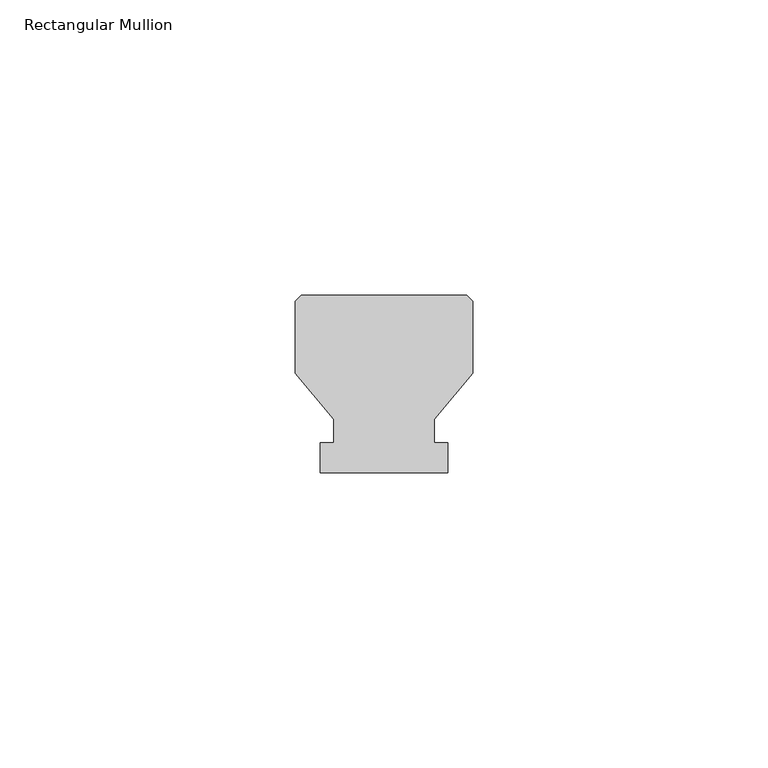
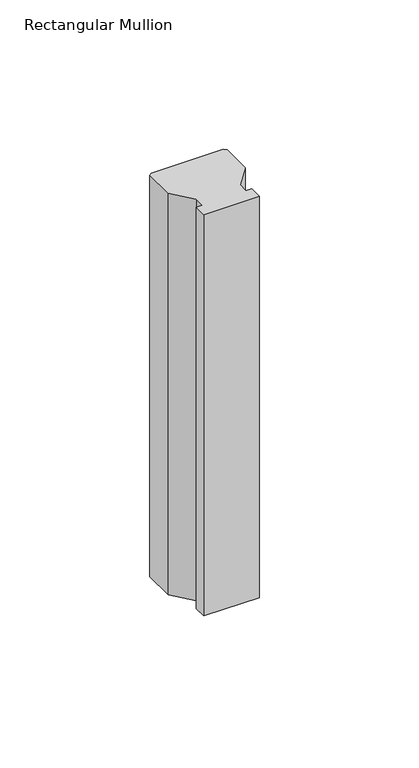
"""IFC4 building model written with IfcOpenShell, lengths in millimetres: member geometry, Rectangular Mullion : Batten_Timber_Modinex_Austratus_Grid_Fin_30x30_Hemlock."""

from ifc_helpers import new_model, si_unit, frame, origin, place, context, project, spatial, polyline, outline, extrude, source, transform, mapped, element, save


def rectangular_mullion_90b7c467(model_context):
    return source(origin(), model_context, "Body", "SweptSolid", [
        extrude(outline(polyline([(-30.0, 16.8079815), (-30.0, 29.0), (-29.0, 30.0), (-1.0, 30.0), (0.0, 29.0), (0.0, 16.8079815), (-6.5, 9.0), (-6.5, 5.0), (-4.187805, 5.0), (-4.187805, 0.0), (-25.812195, 0.0), (-25.812195, 5.0), (-23.5, 5.0), (-23.5, 9.0), (-30.0, 16.8079815)])), frame((0.0, 0.0, -165.0), z_axis=(0.0, 0.0, 1.0), x_axis=(1.0, 0.0, 0.0)), (0.0, 0.0, 1.0), 165.0),
    ])


if __name__ == "__main__":
    model = new_model("IFC4")
    model_context = context("Model", 3, world=origin())
    ifc_project = project(units=[si_unit("LENGTHUNIT", "METRE", prefix="MILLI")], contexts=[model_context])
    site = spatial("IfcSite", under=ifc_project)
    building = spatial("IfcBuilding", under=site)
    placement = place(None, origin())
    rectangular_mullion_shape = rectangular_mullion_90b7c467(model_context)
    element("IfcMember", 1, ObjectType="Rectangular Mullion : Batten_Timber_Modinex_Austratus_Grid_Fin_30x30_Hemlock", at=placement, inside=building, context=model_context, shape_type="MappedRepresentation", body=[
        mapped(rectangular_mullion_shape, transform((0.0, 0.0, 0.0), x_axis=(1.0, 0.0, 0.0), y_axis=(0.0, 1.0, 0.0), z_axis=(0.0, 0.0, 1.0))),
    ])
    save(model, "model.ifc")
